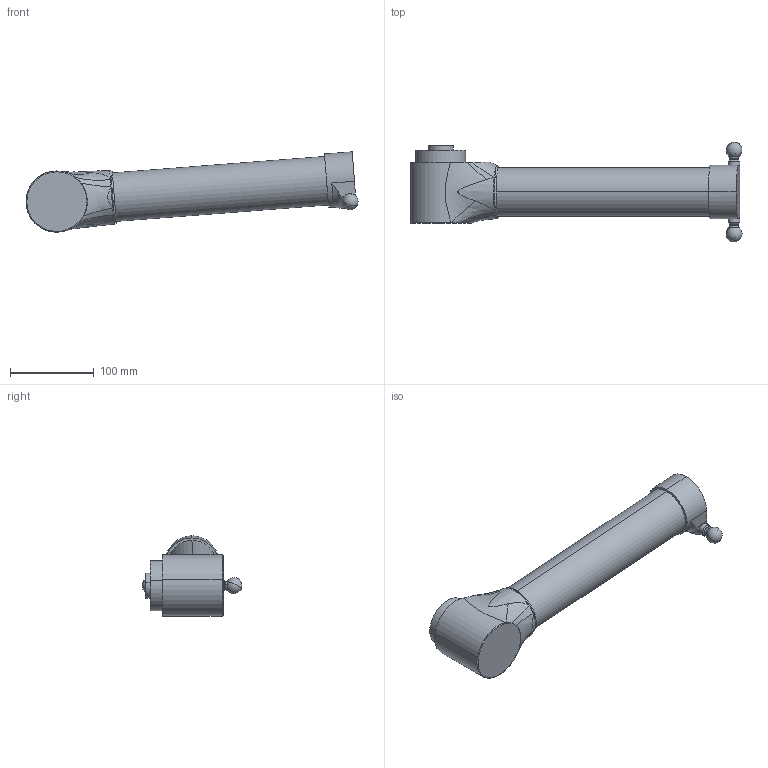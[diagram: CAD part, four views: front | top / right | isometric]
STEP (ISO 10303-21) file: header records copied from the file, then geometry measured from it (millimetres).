
FILE_DESCRIPTION (( 'STEP AP214' ), '1' );
FILE_NAME ('IRB360_8-1130-STD-4D_rev03_UA1_CAD.step', '2025-01-14T07:06:30', ( '' ), ( '' ), 'SwSTEP 2.0', 'SolidWorks 2022', '' );
FILE_SCHEMA (( 'AUTOMOTIVE_DESIGN' ));
Length unit declared in the file: millimetre
Products named in the file (1): IRB360_8-1130-STD-4D_rev03_UA1_CAD
Bounding box: 395.97 x 118.93 x 95.8 mm (x, y, z)
Volume: 1285181.2 mm3; surface area: 93655.5 mm2
Topology: 1 solids, 1 shells, 72 faces, 176 edges, 108 vertices
Faces by surface type: cylinder 17, bspline 17, torus 14, cone 10, plane 10, sphere 4
Entity records: 15726 total; most frequent: CARTESIAN_POINT 13693, ORIENTED_EDGE 332, DIRECTION 294, EDGE_CURVE 166, AXIS2_PLACEMENT_3D 132, VERTEX_POINT 102, EDGE_LOOP 78, CIRCLE 76
